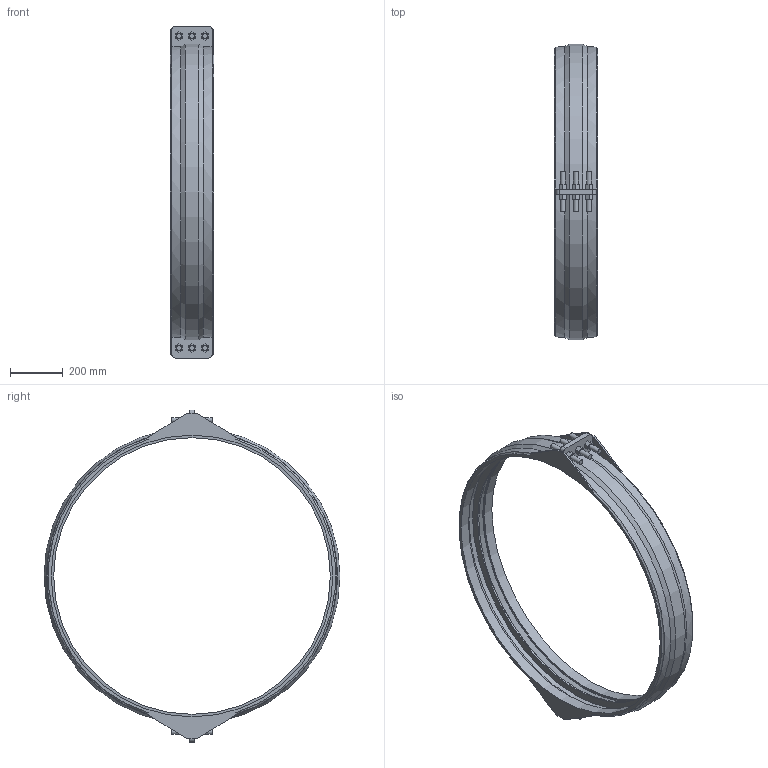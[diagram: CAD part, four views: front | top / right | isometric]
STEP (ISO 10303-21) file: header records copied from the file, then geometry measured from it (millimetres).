
FILE_DESCRIPTION(/* description */ ('VIC SS RESTRAINED COUPLING STYLE 234S (FLEX) (BRS)','CAx-IF Rec.Pracs.---Representation and Presentation of Product Manufacturing Information (PMI)---4.0---2014-10-13'),/* implementation_level */ '2;1');
FILE_NAME(/* name */ 'C:\Users\kkamble\AppData\Roaming\Autodesk\ApplicationPlugins\Back Up\Victaulic_VBSP_Coupling Flexible Restrained_Style 234S (BRS)\Victaulic_VBSP_Coupling Flexible Restrained_Style 234S (BRS)_150psi_42 (1050).stp',/* time_stamp */ '2020-09-22T18:41:57+05:00',/* author */ ('Vjadhav'),/* organization */ ('Victaulic'),/* preprocessor_version */ 'ST-DEVELOPER v17.2',/* originating_system */ 'Autodesk Inventor 2019',/* authorisation */ '');
FILE_SCHEMA (('AP242_MANAGED_MODEL_BASED_3D_ENGINEERING_MIM_LF { 1 0 10303 442 1 1 4 }'));
Length unit declared in the file: inch
Products named in the file (1): Style_234S_Type_2_150psi-42.0
Bounding box: 165.1 x 1120.64 x 1257.3 mm (x, y, z)
Volume: 9133883.3 mm3; surface area: 1685315.7 mm2
Topology: 1 solids, 1 shells, 191 faces, 477 edges, 316 vertices
Faces by surface type: plane 136, cylinder 43, torus 6, cone 6
Full cylindrical faces by diameter (mm): 19.05 x12, 1047.75 x1, 1066.8 x2, 1101.593 x2
Entity records: 6138 total; most frequent: CARTESIAN_POINT 1154, DIRECTION 989, ORIENTED_EDGE 954, EDGE_CURVE 477, LINE 343, VECTOR 343, AXIS2_PLACEMENT_3D 323, VERTEX_POINT 316
